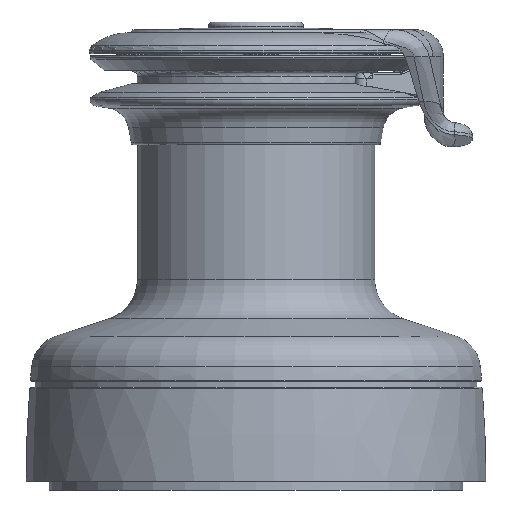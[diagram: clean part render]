
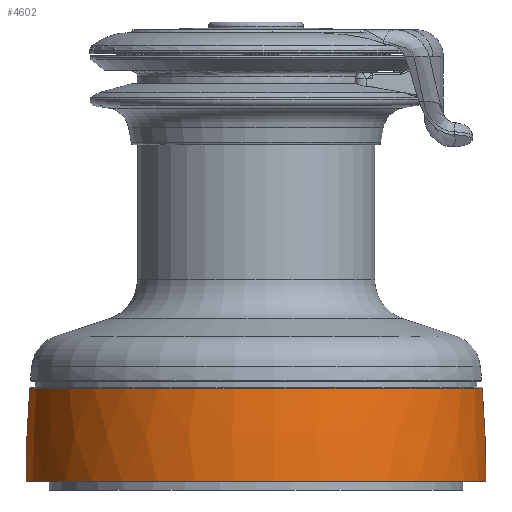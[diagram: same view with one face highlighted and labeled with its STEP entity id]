
A CAD part, left-side view. The second image highlights one B-rep face of the part: STEP entity #4602.
In plain terms, the highlighted free-form (B-spline) face has degree [2, 2] with [3, 9] control points.
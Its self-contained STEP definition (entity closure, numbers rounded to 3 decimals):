
#24=(
BOUNDED_CURVE()
B_SPLINE_CURVE(2,(#10232,#10233,#10234),.UNSPECIFIED.,.F.,.F.)
B_SPLINE_CURVE_WITH_KNOTS((3,3),(-0.078,0.),
 .UNSPECIFIED.)
CURVE()
GEOMETRIC_REPRESENTATION_ITEM()
RATIONAL_B_SPLINE_CURVE((1.,0.999,1.))
REPRESENTATION_ITEM('')
);
#57=(
BOUNDED_SURFACE()
B_SPLINE_SURFACE(2,2,((#10204,#10205,#10206,#10207,#10208,#10209,#10210,
#10211,#10212),(#10213,#10214,#10215,#10216,#10217,#10218,#10219,#10220,
#10221),(#10222,#10223,#10224,#10225,#10226,#10227,#10228,#10229,#10230)),
 .UNSPECIFIED.,.F.,.T.,.F.)
B_SPLINE_SURFACE_WITH_KNOTS((3,3),(3,2,2,2,3),(0.,0.078),
(-3.142,-1.571,0.,1.571,3.142),
 .UNSPECIFIED.)
GEOMETRIC_REPRESENTATION_ITEM()
RATIONAL_B_SPLINE_SURFACE(((1.,0.707,1.,0.707,1.,
0.707,1.,0.707,1.),(0.999,0.707,
0.999,0.707,0.999,0.707,0.999,
0.707,0.999),(1.,0.707,1.,0.707,
1.,0.707,1.,0.707,1.)))
REPRESENTATION_ITEM('')
SURFACE()
);
#1071=FACE_OUTER_BOUND('',#1421,.T.);
#1421=EDGE_LOOP('',(#3924,#3925,#3926,#3927,#3928));
#1783=CIRCLE('',#5129,76.281);
#1785=CIRCLE('',#5132,77.5);
#1786=CIRCLE('',#5133,77.5);
#2179=VERTEX_POINT('',#10199);
#2181=VERTEX_POINT('',#10231);
#2182=VERTEX_POINT('',#10235);
#2793=EDGE_CURVE('',#2179,#2179,#1783,.T.);
#2795=EDGE_CURVE('',#2179,#2181,#24,.T.);
#2796=EDGE_CURVE('',#2181,#2182,#1785,.T.);
#2797=EDGE_CURVE('',#2182,#2181,#1786,.T.);
#3924=ORIENTED_EDGE('',*,*,#2793,.F.);
#3925=ORIENTED_EDGE('',*,*,#2795,.T.);
#3926=ORIENTED_EDGE('',*,*,#2796,.T.);
#3927=ORIENTED_EDGE('',*,*,#2797,.T.);
#3928=ORIENTED_EDGE('',*,*,#2795,.F.);
#4602=ADVANCED_FACE('',(#1071),#57,.F.);
#5129=AXIS2_PLACEMENT_3D('',#10200,#6264,#6265);
#5132=AXIS2_PLACEMENT_3D('',#10236,#6270,#6271);
#5133=AXIS2_PLACEMENT_3D('',#10237,#6272,#6273);
#6264=DIRECTION('center_axis',(0.,0.,
1.));
#6265=DIRECTION('ref_axis',(-0.997,-0.078,0.));
#6270=DIRECTION('center_axis',(0.,0.,
1.));
#6271=DIRECTION('ref_axis',(-0.078,0.997,0.));
#6272=DIRECTION('center_axis',(0.,0.,
1.));
#6273=DIRECTION('ref_axis',(-0.078,0.997,0.));
#10199=CARTESIAN_POINT('',(76.046,5.985,34.201));
#10200=CARTESIAN_POINT('Origin',(0.,0.,
34.201));
#10204=CARTESIAN_POINT('Ctrl Pts',(77.261,6.081,3.));
#10205=CARTESIAN_POINT('Ctrl Pts',(71.181,83.342,3.));
#10206=CARTESIAN_POINT('Ctrl Pts',(-6.081,77.261,3.));
#10207=CARTESIAN_POINT('Ctrl Pts',(-83.342,71.181,3.));
#10208=CARTESIAN_POINT('Ctrl Pts',(-77.261,-6.081,
3.));
#10209=CARTESIAN_POINT('Ctrl Pts',(-71.181,-83.342,
3.));
#10210=CARTESIAN_POINT('Ctrl Pts',(6.081,-77.261,3.));
#10211=CARTESIAN_POINT('Ctrl Pts',(83.342,-71.181,3.));
#10212=CARTESIAN_POINT('Ctrl Pts',(77.261,6.081,3.));
#10213=CARTESIAN_POINT('Ctrl Pts',(77.261,6.081,18.624));
#10214=CARTESIAN_POINT('Ctrl Pts',(71.181,83.342,18.624));
#10215=CARTESIAN_POINT('Ctrl Pts',(-6.081,77.261,18.624));
#10216=CARTESIAN_POINT('Ctrl Pts',(-83.342,71.181,18.624));
#10217=CARTESIAN_POINT('Ctrl Pts',(-77.261,-6.081,
18.624));
#10218=CARTESIAN_POINT('Ctrl Pts',(-71.181,-83.342,
18.624));
#10219=CARTESIAN_POINT('Ctrl Pts',(6.081,-77.261,18.624));
#10220=CARTESIAN_POINT('Ctrl Pts',(83.342,-71.181,18.624));
#10221=CARTESIAN_POINT('Ctrl Pts',(77.261,6.081,18.624));
#10222=CARTESIAN_POINT('Ctrl Pts',(76.046,5.985,34.201));
#10223=CARTESIAN_POINT('Ctrl Pts',(70.061,82.031,34.201));
#10224=CARTESIAN_POINT('Ctrl Pts',(-5.985,76.046,34.201));
#10225=CARTESIAN_POINT('Ctrl Pts',(-82.031,70.061,34.201));
#10226=CARTESIAN_POINT('Ctrl Pts',(-76.046,-5.985,
34.201));
#10227=CARTESIAN_POINT('Ctrl Pts',(-70.061,-82.031,
34.201));
#10228=CARTESIAN_POINT('Ctrl Pts',(5.985,-76.046,34.201));
#10229=CARTESIAN_POINT('Ctrl Pts',(82.031,-70.061,34.201));
#10230=CARTESIAN_POINT('Ctrl Pts',(76.046,5.985,34.201));
#10231=CARTESIAN_POINT('',(77.261,6.081,3.));
#10232=CARTESIAN_POINT('Ctrl Pts',(76.046,5.985,34.201));
#10233=CARTESIAN_POINT('Ctrl Pts',(77.261,6.081,18.624));
#10234=CARTESIAN_POINT('Ctrl Pts',(77.261,6.081,3.));
#10235=CARTESIAN_POINT('',(-6.081,77.261,3.));
#10236=CARTESIAN_POINT('Origin',(0.,0.,
3.));
#10237=CARTESIAN_POINT('Origin',(0.,0.,
3.));
